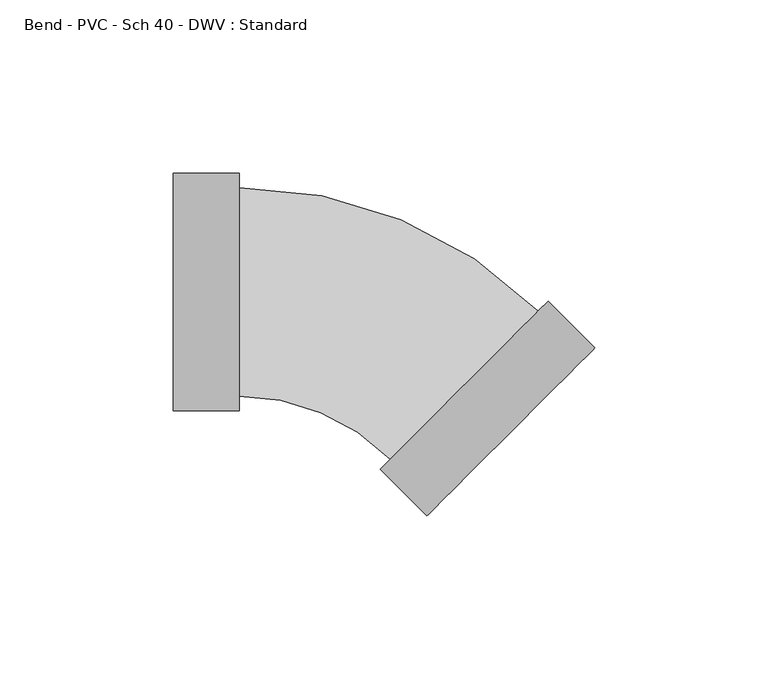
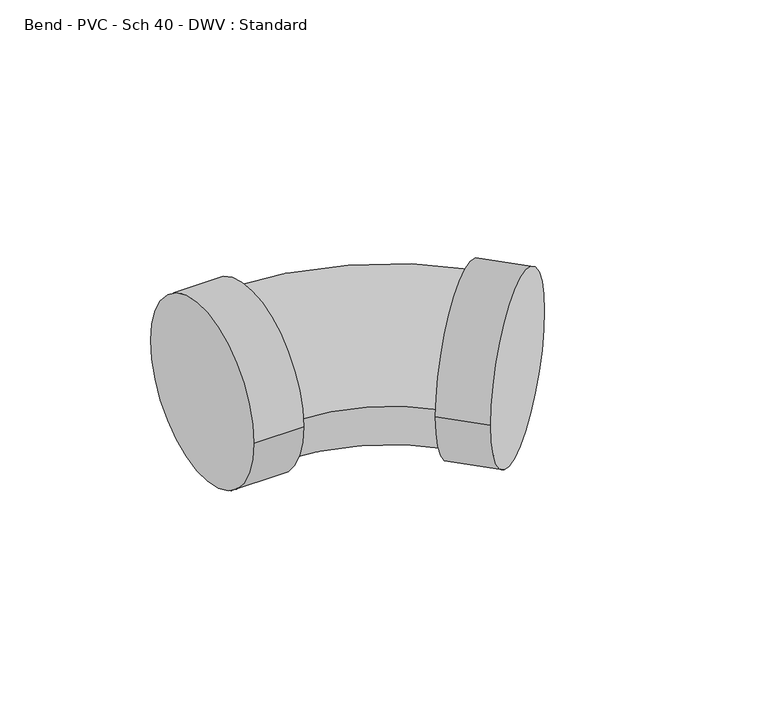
"""IFC4 building model written with IfcOpenShell, lengths in millimetres: pipe fitting geometry, Bend - PVC - Sch 40 - DWV : Standard."""

from ifc_helpers import new_model, si_unit, point, frame, origin, place, context, project, spatial, circle_curve, ellipse_curve, trimmed, source, transform, mapped, element, save
from ifc_brep_helpers import plane_surface, cylinder_surface, revolved_surface, advanced_brep


def bend_pvc_sch_40_dwv_standard_e264ddd1(model_context):
    return source(origin(), model_context, "Body", "AdvancedBrep", [
        advanced_brep(
        [(-57.15, 34.3154, 0.0), (-57.15, -34.3154, 0.0), (-38.1, 34.3154, 0.0), (-38.1, -34.3154, 0.0), (-38.1, 30.1625, 0.0), (-38.1, -30.1625, 0.0), (5.6148326, -48.268624, 0.0), (48.2691292, -5.6104875, 0.0), (51.2055408, -2.6738116, 0.0), (2.6784211, -51.2052999, 0.0), (64.6765313, -16.1435895, 0.0), (16.1494115, -64.6750778, 0.0)],
        [
            (0, 1, circle_curve(frame((-57.15, 0.0, 0.0), z_axis=(-1.0, 0.0, 0.0), x_axis=(0.0, -1.0, 0.0)), 34.3154)),
            (1, 0, circle_curve(frame((-57.15, 0.0, 0.0), z_axis=(-1.0, 0.0, 0.0), x_axis=(0.0, -1.0, 0.0)), 34.3154)),
            (2, 3, circle_curve(frame((-38.1, 0.0, 0.0), z_axis=(1.0, 0.0, 0.0), x_axis=(0.0, -1.0, 0.0)), 34.3154)),
            (3, 2, circle_curve(frame((-38.1, 0.0, 0.0), z_axis=(1.0, 0.0, 0.0), x_axis=(0.0, -1.0, 0.0)), 34.3154)),
            (4, 5, circle_curve(frame((-38.1, 0.0, 0.0), z_axis=(-1.0, 0.0, 0.0), x_axis=(0.0, -1.0, 0.0)), 30.1625)),
            (5, 4, circle_curve(frame((-38.1, 0.0, 0.0), z_axis=(-1.0, 0.0, 0.0), x_axis=(0.0, -1.0, 0.0)), 30.1625)),
            (1, 3),
            (2, 0),
            (6, 7, circle_curve(frame((26.9419809, -26.9395557, 0.0), z_axis=(-0.70713860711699, 0.7070749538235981, 0.0), x_axis=(-0.7070749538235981, -0.70713860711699, 0.0)), 30.1625)),
            (7, 4, circle_curve(frame((-38.1, -91.987392, 0.0), z_axis=(0.0, 0.0, 1.0), x_axis=(0.0, 1.0, 0.0)), 122.149892)),
            (5, 6, circle_curve(frame((-38.1, -91.987392, 0.0), z_axis=(0.0, 0.0, -1.0), x_axis=(0.0, 1.0, 0.0)), 61.824892)),
            (7, 6, circle_curve(frame((26.9419809, -26.9395557, 0.0), z_axis=(-0.70713860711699, 0.7070749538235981, 0.0), x_axis=(-0.7070749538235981, -0.70713860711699, 0.0)), 30.1625)),
            (8, 9, circle_curve(frame((26.9419809, -26.9395557, 0.0), z_axis=(-0.7071386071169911, 0.7070749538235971, 0.0), x_axis=(-0.7070749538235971, -0.7071386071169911, 0.0)), 34.3154)),
            (9, 8, circle_curve(frame((26.9419809, -26.9395557, 0.0), z_axis=(-0.7071386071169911, 0.7070749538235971, 0.0), x_axis=(-0.7070749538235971, -0.7071386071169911, 0.0)), 34.3154)),
            (10, 11, circle_curve(frame((40.4129714, -40.4093336, 0.0), z_axis=(0.7071386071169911, -0.7070749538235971, 0.0), x_axis=(-0.7070749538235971, -0.7071386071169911, 0.0)), 34.3154)),
            (11, 10, circle_curve(frame((40.4129714, -40.4093336, 0.0), z_axis=(0.7071386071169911, -0.7070749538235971, 0.0), x_axis=(-0.7070749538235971, -0.7071386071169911, 0.0)), 34.3154)),
            (9, 11),
            (10, 8),
        ],
        [
            plane_surface(frame((-57.15, 0.0, 0.0), z_axis=(-1.0, 0.0, 0.0), x_axis=(0.0, 0.0, 1.0))),
            plane_surface(frame((-38.1, 0.0, 0.0), z_axis=(1.0, 0.0, 0.0), x_axis=(0.0, 0.0, 1.0))),
            cylinder_surface(frame((-57.15, 0.0, 0.0), z_axis=(-1.0, 0.0, 0.0), x_axis=(0.0, -1.0, 0.0)), 34.3154),
            revolved_surface(trimmed(ellipse_curve(frame((-38.1, 0.0, 0.0), z_axis=(1.0, 0.0, 0.0), x_axis=(0.0, -1.0, 0.0)), 30.1625, 30.1625), [point((-38.1, 30.1625, 0.0))], [point((-38.1, -30.1625, 0.0))], True, "CARTESIAN"), (-38.1, -91.987392, 0.0), (0.0, 0.0, 1.0)),
            revolved_surface(trimmed(ellipse_curve(frame((-38.1, 0.0, 0.0), z_axis=(1.0, 0.0, 0.0), x_axis=(0.0, -1.0, 0.0)), 30.1625, 30.1625), [point((-38.1, -30.1625, 0.0))], [point((-38.1, 30.1625, 0.0))], True, "CARTESIAN"), (-38.1, -91.987392, 0.0), (0.0, 0.0, 1.0)),
            plane_surface(frame((26.9419809, -26.9395557, 0.0), z_axis=(-0.7071386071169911, 0.7070749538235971, 0.0), x_axis=(0.0, 0.0, 1.0))),
            plane_surface(frame((40.4129714, -40.4093336, 0.0), z_axis=(0.7071386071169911, -0.7070749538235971, 0.0), x_axis=(0.0, 0.0, 1.0))),
            cylinder_surface(frame((26.9419809, -26.9395557, 0.0), z_axis=(-0.7071386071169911, 0.7070749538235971, 0.0), x_axis=(-0.7070749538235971, -0.7071386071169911, 0.0)), 34.3154),
        ],
        [
            (0, [[1, 2]]),
            (1, [[3, 4], [5, 6]]),
            (2, [[7, -3, 8, -2]]),
            (2, [[-8, -4, -7, -1]]),
            (3, [[9, 10, -6, 11]]),
            (4, [[-5, -10, 12, -11]]),
            (5, [[13, 14], [-12, -9]]),
            (6, [[15, 16]]),
            (7, [[17, -15, 18, -14]]),
            (7, [[-18, -16, -17, -13]]),
        ],
    ),
    ])


if __name__ == "__main__":
    model = new_model("IFC4")
    model_context = context("Model", 3, world=origin())
    ifc_project = project(units=[si_unit("LENGTHUNIT", "METRE", prefix="MILLI")], contexts=[model_context])
    site = spatial("IfcSite", under=ifc_project)
    building = spatial("IfcBuilding", under=site)
    placement = place(None, origin())
    bend_pvc_sch_40_dwv_standard_shape = bend_pvc_sch_40_dwv_standard_e264ddd1(model_context)
    element("IfcPipeFitting", 1, ObjectType="Bend - PVC - Sch 40 - DWV : Standard", at=placement, inside=building, context=model_context, shape_type="MappedRepresentation", body=[
        mapped(bend_pvc_sch_40_dwv_standard_shape, transform((0.0, 0.0, 0.0), x_axis=(1.0, 0.0, 0.0), y_axis=(0.0, 1.0, 0.0), z_axis=(0.0, 0.0, 1.0))),
    ])
    save(model, "model.ifc")
